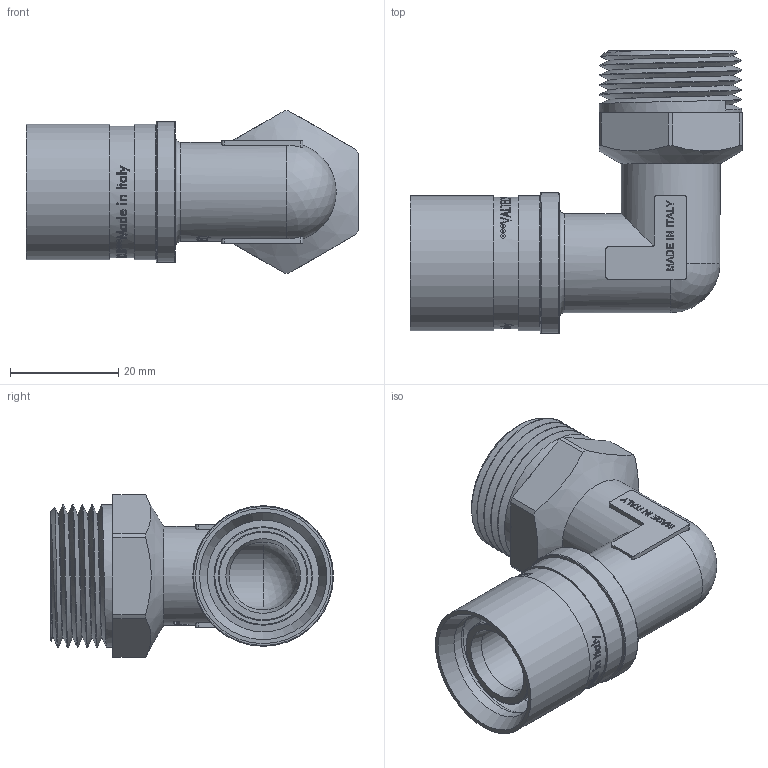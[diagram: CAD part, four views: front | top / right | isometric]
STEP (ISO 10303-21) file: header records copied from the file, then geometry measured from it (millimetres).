
FILE_DESCRIPTION(/* description */ (''),/* implementation_level */ '2;1');
FILE_NAME(/* name */ 'F:\Артём\00000\Работа удаленка\Аксеальные фитинги\VTm.453.BG.002005.stp',/* time_stamp */ '2021-01-27T11:32:22+03:00',/* author */ ('almis'),/* organization */ (''),/* preprocessor_version */ 'ST-DEVELOPER v18',/* originating_system */ 'Autodesk Inventor 2020',/* authorisation */ '');
FILE_SCHEMA (('AUTOMOTIVE_DESIGN { 1 0 10303 214 3 1 1 }'));
Length unit declared in the file: millimetre
Products named in the file (1): VTm.403.BG.001616
Bounding box: 61.36 x 52.3 x 30 mm (x, y, z)
Volume: 16544.8 mm3; surface area: 14832.7 mm2
Topology: 1 solids, 1 shells, 1069 faces, 2919 edges, 1961 vertices
Faces by surface type: bspline 474, plane 432, cylinder 126, torus 23, cone 12, sphere 2
Full cylindrical faces by diameter (mm): 12.6 x2, 15.7 x5, 16.5 x4, 18.2 x1, 18.3 x2, 20 x1, 20.65 x2, 22.8 x5, 24.3 x1, 25 x2, 26 x1, 26.4 x4
Entity records: 44278 total; most frequent: CARTESIAN_POINT 19986, ORIENTED_EDGE 5838, DIRECTION 3598, EDGE_CURVE 2919, VERTEX_POINT 1961, LINE 1444, VECTOR 1444, EDGE_LOOP 1180
